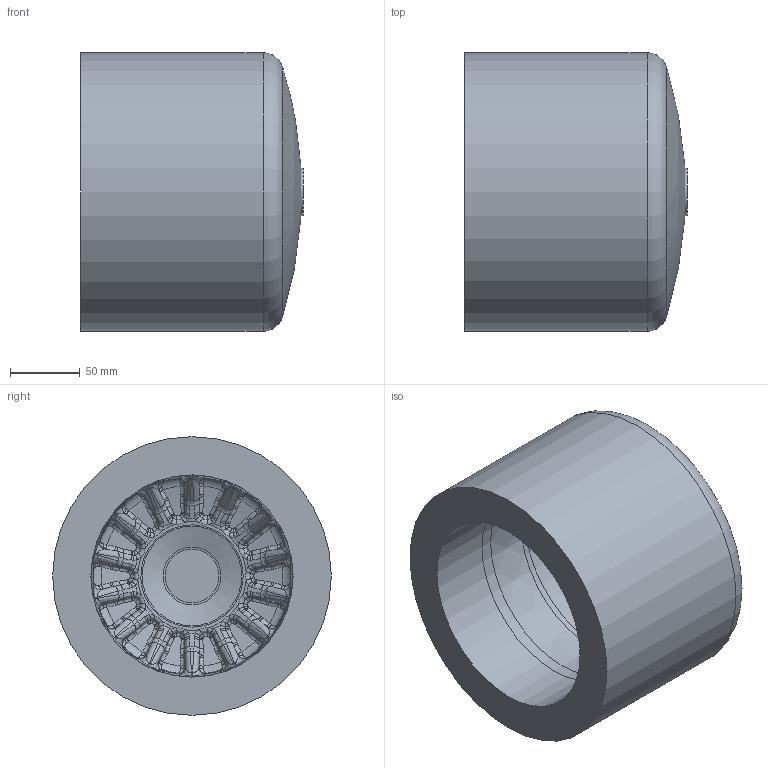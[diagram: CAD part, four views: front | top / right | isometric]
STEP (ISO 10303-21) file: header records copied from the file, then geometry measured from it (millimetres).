
FILE_DESCRIPTION(/* description */ ('Unknown'),/* implementation_level */ '2;1');
FILE_NAME(/* name */ 'CAP200H',/* time_stamp */ '2022-04-01T15:51:31+02:00',/* author */ ('Unknown'),/* organization */ ('Unknown'),/* preprocessor_version */ 'ST-DEVELOPER v18.1',/* originating_system */ 'Solid Edge',/* authorisation */ 'Unknown');
FILE_SCHEMA (('AUTOMOTIVE_DESIGN {1 0 10303 214 3 1 1}'));
Length unit declared in the file: millimetre
Products named in the file (1): CAP200H
Bounding box: 160 x 200 x 200 mm (x, y, z)
Volume: 2686088.3 mm3; surface area: 206859.7 mm2
Topology: 1 solids, 1 shells, 661 faces, 1515 edges, 858 vertices
Faces by surface type: bspline 476, torus 103, cone 32, plane 32, sphere 15, cylinder 3
Full cylindrical faces by diameter (mm): 34 x1, 145.2 x1, 200 x1
Entity records: 23454 total; most frequent: CARTESIAN_POINT 11626, ORIENTED_EDGE 2998, DIRECTION 1830, EDGE_CURVE 1499, AXIS2_PLACEMENT_3D 915, VERTEX_POINT 855, B_SPLINE_CURVE_WITH_KNOTS 770, CIRCLE 701
